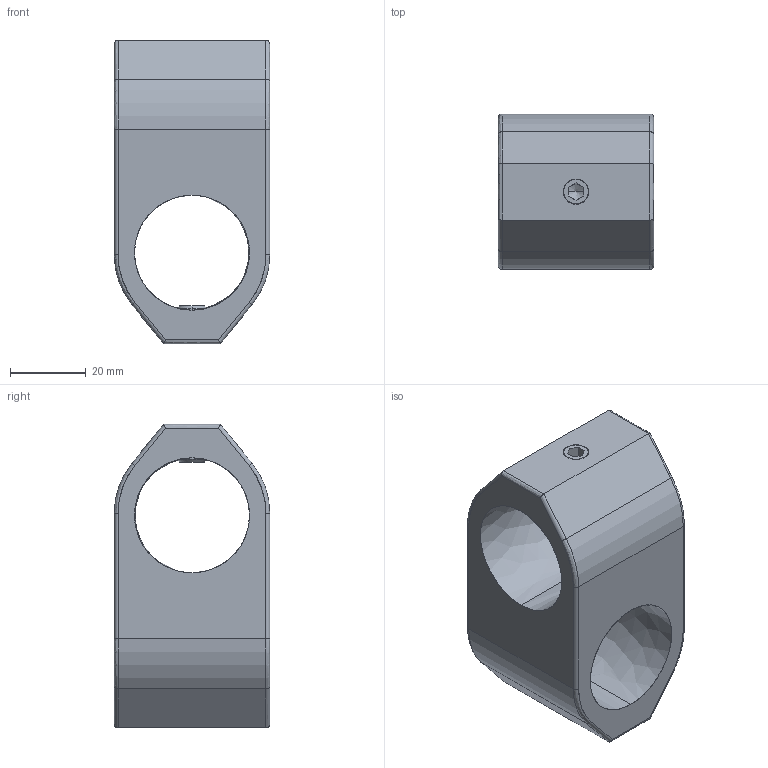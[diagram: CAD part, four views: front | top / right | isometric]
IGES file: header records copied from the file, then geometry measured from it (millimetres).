
Start section: SolidWorks IGES file using analytic representation for surfaces
Global section: file name: C:\Users\Gerard\OneDrive - Tecnodin, S.L\Escritorio\30 mm Verbinder im step. Format\31000410015.IGS; native system: SolidWorks 2016; preprocessor: SolidWorks 2016; author: Gerard; date: 240902.114340; units: millimetre
Bounding box: 41 x 41 x 80 mm (x, y, z)
Surface area: 19909.8 mm2 (no closed solid volume)
Topology: 0 solids, 0 shells, 78 faces, 1100 edges, 1096 vertices
Faces by surface type: revolution 44, bspline 34
